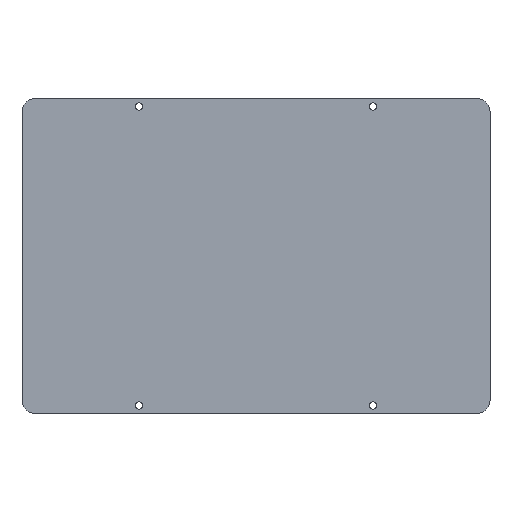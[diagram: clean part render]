
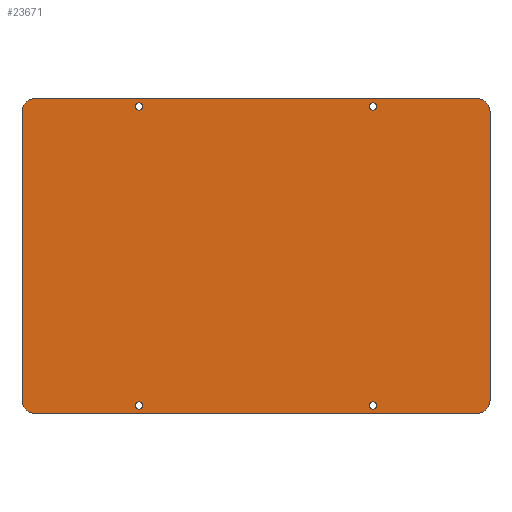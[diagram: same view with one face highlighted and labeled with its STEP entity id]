
A CAD part, front view. The second image highlights one B-rep face of the part: STEP entity #23671.
In plain terms, the highlighted planar face has unit normal (0, -1, 0).
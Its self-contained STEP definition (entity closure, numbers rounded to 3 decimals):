
#48 = CARTESIAN_POINT ( 'NONE',  ( 72.5, 0.1, 92.643 ) ) ;
#473 = CIRCLE ( 'NONE', #32227, 2.25 ) ;
#536 = VERTEX_POINT ( 'NONE', #10340 ) ;
#967 = CARTESIAN_POINT ( 'NONE',  ( 72.5, 0.1, 92.643 ) ) ;
#1221 = DIRECTION ( 'NONE',  ( 0., 0., 1. ) ) ;
#1287 = AXIS2_PLACEMENT_3D ( 'NONE', #24098, #7416, #26897 ) ;
#1587 = DIRECTION ( 'NONE',  ( 0., 0., 1. ) ) ;
#1801 = DIRECTION ( 'NONE',  ( 0., 0., 1. ) ) ;
#1858 = DIRECTION ( 'NONE',  ( 1., 0., 0. ) ) ;
#1931 = VERTEX_POINT ( 'NONE', #4948 ) ;
#2537 = CARTESIAN_POINT ( 'NONE',  ( 145., 0.1, 100.11 ) ) ;
#2713 = ORIENTED_EDGE ( 'NONE', *, *, #18815, .F. ) ;
#2774 = ORIENTED_EDGE ( 'NONE', *, *, #20781, .T. ) ;
#2854 = DIRECTION ( 'NONE',  ( 0., 0., 1. ) ) ;
#3035 = VERTEX_POINT ( 'NONE', #32906 ) ;
#3277 = VERTEX_POINT ( 'NONE', #12453 ) ;
#3445 = CARTESIAN_POINT ( 'NONE',  ( 72.5, 0.1, 90.393 ) ) ;
#3480 = VERTEX_POINT ( 'NONE', #6334 ) ;
#3679 = ORIENTED_EDGE ( 'NONE', *, *, #11369, .T. ) ;
#3749 = DIRECTION ( 'NONE',  ( 0., 0., 1. ) ) ;
#4088 = LINE ( 'NONE', #21228, #10593 ) ;
#4319 = VECTOR ( 'NONE', #30994, 1000. ) ;
#4609 = CARTESIAN_POINT ( 'NONE',  ( 72.5, 0.1, 94.893 ) ) ;
#4948 = CARTESIAN_POINT ( 'NONE',  ( 72.5, 0.1, -94.893 ) ) ;
#5116 = CARTESIAN_POINT ( 'NONE',  ( -72.5, 0.1, 92.643 ) ) ;
#5619 = CIRCLE ( 'NONE', #28300, 2.25 ) ;
#5715 = EDGE_CURVE ( 'NONE', #11382, #14102, #33263, .T. ) ;
#5905 = CARTESIAN_POINT ( 'NONE',  ( 137., 0.1, -89.5 ) ) ;
#6334 = CARTESIAN_POINT ( 'NONE',  ( 137., 0.1, 97.5 ) ) ;
#6548 = CIRCLE ( 'NONE', #11688, 8. ) ;
#6581 = EDGE_CURVE ( 'NONE', #14102, #11382, #20968, .T. ) ;
#6770 = VERTEX_POINT ( 'NONE', #14685 ) ;
#6870 = EDGE_CURVE ( 'NONE', #3035, #26585, #19264, .T. ) ;
#7285 = EDGE_LOOP ( 'NONE', ( #18295, #24692 ) ) ;
#7416 = DIRECTION ( 'NONE',  ( 0., 1., 0. ) ) ;
#7528 = AXIS2_PLACEMENT_3D ( 'NONE', #29029, #12339, #31838 ) ;
#7917 = DIRECTION ( 'NONE',  ( 0., 0., 1. ) ) ;
#7960 = CIRCLE ( 'NONE', #27759, 2.25 ) ;
#8222 = AXIS2_PLACEMENT_3D ( 'NONE', #48, #19432, #2854 ) ;
#8329 = VERTEX_POINT ( 'NONE', #33701 ) ;
#8486 = ORIENTED_EDGE ( 'NONE', *, *, #6581, .F. ) ;
#8569 = CIRCLE ( 'NONE', #1287, 8. ) ;
#8707 = DIRECTION ( 'NONE',  ( 0., 0., 1. ) ) ;
#8790 = VERTEX_POINT ( 'NONE', #27482 ) ;
#8840 = ORIENTED_EDGE ( 'NONE', *, *, #17934, .T. ) ;
#9089 = VERTEX_POINT ( 'NONE', #20598 ) ;
#9246 = CARTESIAN_POINT ( 'NONE',  ( 72.5, 0.1, -92.643 ) ) ;
#9387 = CIRCLE ( 'NONE', #34270, 8. ) ;
#9569 = ORIENTED_EDGE ( 'NONE', *, *, #32740, .F. ) ;
#10340 = CARTESIAN_POINT ( 'NONE',  ( -72.5, 0.1, -90.393 ) ) ;
#10593 = VECTOR ( 'NONE', #1858, 1000. ) ;
#11369 = EDGE_CURVE ( 'NONE', #16163, #9089, #4088, .T. ) ;
#11376 = AXIS2_PLACEMENT_3D ( 'NONE', #21526, #16026, #35524 ) ;
#11382 = VERTEX_POINT ( 'NONE', #4609 ) ;
#11490 = CIRCLE ( 'NONE', #32332, 2.25 ) ;
#11509 = CARTESIAN_POINT ( 'NONE',  ( -145., 0.1, 100.11 ) ) ;
#11688 = AXIS2_PLACEMENT_3D ( 'NONE', #35074, #18381, #1801 ) ;
#11998 = DIRECTION ( 'NONE',  ( 0., 0., 1. ) ) ;
#12339 = DIRECTION ( 'NONE',  ( 0., 1., 0. ) ) ;
#12453 = CARTESIAN_POINT ( 'NONE',  ( 145., 0.1, -89.5 ) ) ;
#12559 = ORIENTED_EDGE ( 'NONE', *, *, #16994, .T. ) ;
#12596 = EDGE_CURVE ( 'NONE', #19284, #536, #7960, .T. ) ;
#12763 = CARTESIAN_POINT ( 'NONE',  ( -137., 0.1, -97.5 ) ) ;
#13251 = CARTESIAN_POINT ( 'NONE',  ( 0., 0.1, 97.5 ) ) ;
#13722 = EDGE_CURVE ( 'NONE', #3480, #6770, #6548, .T. ) ;
#13883 = EDGE_CURVE ( 'NONE', #1931, #8329, #473, .T. ) ;
#14102 = VERTEX_POINT ( 'NONE', #3445 ) ;
#14611 = EDGE_CURVE ( 'NONE', #8329, #1931, #5619, .T. ) ;
#14685 = CARTESIAN_POINT ( 'NONE',  ( 145., 0.1, 89.5 ) ) ;
#15065 = DIRECTION ( 'NONE',  ( 0., -1., 0. ) ) ;
#16026 = DIRECTION ( 'NONE',  ( 0., 1., 0. ) ) ;
#16163 = VERTEX_POINT ( 'NONE', #12763 ) ;
#16417 = DIRECTION ( 'NONE',  ( 0., 1., 0. ) ) ;
#16472 = AXIS2_PLACEMENT_3D ( 'NONE', #34505, #17806, #1221 ) ;
#16994 = EDGE_CURVE ( 'NONE', #9089, #3277, #33794, .T. ) ;
#17493 = ORIENTED_EDGE ( 'NONE', *, *, #24315, .F. ) ;
#17594 = AXIS2_PLACEMENT_3D ( 'NONE', #5905, #25390, #8707 ) ;
#17783 = VERTEX_POINT ( 'NONE', #35046 ) ;
#17806 = DIRECTION ( 'NONE',  ( 0., -1., 0. ) ) ;
#17934 = EDGE_CURVE ( 'NONE', #26585, #3035, #11490, .T. ) ;
#18164 = DIRECTION ( 'NONE',  ( 0., 1., 0. ) ) ;
#18295 = ORIENTED_EDGE ( 'NONE', *, *, #13883, .T. ) ;
#18381 = DIRECTION ( 'NONE',  ( 0., 1., 0. ) ) ;
#18420 = AXIS2_PLACEMENT_3D ( 'NONE', #967, #20356, #3749 ) ;
#18424 = EDGE_LOOP ( 'NONE', ( #9569, #22455, #3679, #12559, #2774, #30118, #23364, #17493 ) ) ;
#18599 = DIRECTION ( 'NONE',  ( 1., 0., 0. ) ) ;
#18806 = ORIENTED_EDGE ( 'NONE', *, *, #12596, .F. ) ;
#18815 = EDGE_CURVE ( 'NONE', #536, #19284, #32775, .T. ) ;
#19225 = CARTESIAN_POINT ( 'NONE',  ( -145., 0.1, -89.5 ) ) ;
#19264 = CIRCLE ( 'NONE', #7528, 2.25 ) ;
#19284 = VERTEX_POINT ( 'NONE', #22913 ) ;
#19432 = DIRECTION ( 'NONE',  ( 0., -1., 0. ) ) ;
#19461 = EDGE_LOOP ( 'NONE', ( #30295, #8840 ) ) ;
#20356 = DIRECTION ( 'NONE',  ( 0., -1., 0. ) ) ;
#20598 = CARTESIAN_POINT ( 'NONE',  ( 137., 0.1, -97.5 ) ) ;
#20781 = EDGE_CURVE ( 'NONE', #3277, #6770, #28776, .T. ) ;
#20968 = CIRCLE ( 'NONE', #8222, 2.25 ) ;
#21228 = CARTESIAN_POINT ( 'NONE',  ( 0., 0.1, -97.5 ) ) ;
#21526 = CARTESIAN_POINT ( 'NONE',  ( 0., 0.1, 100.11 ) ) ;
#21600 = FACE_BOUND ( 'NONE', #7285, .T. ) ;
#22455 = ORIENTED_EDGE ( 'NONE', *, *, #34664, .F. ) ;
#22479 = FACE_BOUND ( 'NONE', #30831, .T. ) ;
#22913 = CARTESIAN_POINT ( 'NONE',  ( -72.5, 0.1, -94.893 ) ) ;
#23364 = ORIENTED_EDGE ( 'NONE', *, *, #25032, .F. ) ;
#23671 = ADVANCED_FACE ( 'NONE', ( #21600, #24261, #29019, #22479, #31645 ), #32724, .F. ) ;
#24098 = CARTESIAN_POINT ( 'NONE',  ( -137., 0.1, -89.5 ) ) ;
#24261 = FACE_BOUND ( 'NONE', #35709, .T. ) ;
#24315 = EDGE_CURVE ( 'NONE', #17783, #8790, #9387, .T. ) ;
#24612 = DIRECTION ( 'NONE',  ( 0., 1., 0. ) ) ;
#24692 = ORIENTED_EDGE ( 'NONE', *, *, #14611, .T. ) ;
#25032 = EDGE_CURVE ( 'NONE', #8790, #3480, #31068, .T. ) ;
#25390 = DIRECTION ( 'NONE',  ( 0., -1., 0. ) ) ;
#26585 = VERTEX_POINT ( 'NONE', #26938 ) ;
#26897 = DIRECTION ( 'NONE',  ( 0., 0., 1. ) ) ;
#26938 = CARTESIAN_POINT ( 'NONE',  ( -72.5, 0.1, 94.893 ) ) ;
#27482 = CARTESIAN_POINT ( 'NONE',  ( -137., 0.1, 97.5 ) ) ;
#27575 = DIRECTION ( 'NONE',  ( 0., 0., 1. ) ) ;
#27759 = AXIS2_PLACEMENT_3D ( 'NONE', #31783, #15065, #34573 ) ;
#27907 = VECTOR ( 'NONE', #27575, 1000. ) ;
#28300 = AXIS2_PLACEMENT_3D ( 'NONE', #9246, #28691, #11998 ) ;
#28691 = DIRECTION ( 'NONE',  ( 0., 1., 0. ) ) ;
#28776 = LINE ( 'NONE', #2537, #27907 ) ;
#29019 = FACE_BOUND ( 'NONE', #19461, .T. ) ;
#29029 = CARTESIAN_POINT ( 'NONE',  ( -72.5, 0.1, 92.643 ) ) ;
#30118 = ORIENTED_EDGE ( 'NONE', *, *, #13722, .F. ) ;
#30195 = VECTOR ( 'NONE', #18599, 1000. ) ;
#30295 = ORIENTED_EDGE ( 'NONE', *, *, #6870, .T. ) ;
#30831 = EDGE_LOOP ( 'NONE', ( #8486, #31277 ) ) ;
#30994 = DIRECTION ( 'NONE',  ( 0., 0., 1. ) ) ;
#31068 = LINE ( 'NONE', #13251, #30195 ) ;
#31277 = ORIENTED_EDGE ( 'NONE', *, *, #5715, .F. ) ;
#31645 = FACE_OUTER_BOUND ( 'NONE', #18424, .T. ) ;
#31783 = CARTESIAN_POINT ( 'NONE',  ( -72.5, 0.1, -92.643 ) ) ;
#31838 = DIRECTION ( 'NONE',  ( 0., 0., 1. ) ) ;
#32227 = AXIS2_PLACEMENT_3D ( 'NONE', #33117, #16417, #35908 ) ;
#32332 = AXIS2_PLACEMENT_3D ( 'NONE', #5116, #24612, #7917 ) ;
#32724 = PLANE ( 'NONE',  #11376 ) ;
#32740 = EDGE_CURVE ( 'NONE', #33676, #17783, #33907, .T. ) ;
#32775 = CIRCLE ( 'NONE', #16472, 2.25 ) ;
#32906 = CARTESIAN_POINT ( 'NONE',  ( -72.5, 0.1, 90.393 ) ) ;
#33117 = CARTESIAN_POINT ( 'NONE',  ( 72.5, 0.1, -92.643 ) ) ;
#33263 = CIRCLE ( 'NONE', #18420, 2.25 ) ;
#33676 = VERTEX_POINT ( 'NONE', #19225 ) ;
#33701 = CARTESIAN_POINT ( 'NONE',  ( 72.5, 0.1, -90.393 ) ) ;
#33794 = CIRCLE ( 'NONE', #17594, 8. ) ;
#33907 = LINE ( 'NONE', #11509, #4319 ) ;
#34270 = AXIS2_PLACEMENT_3D ( 'NONE', #34869, #18164, #1587 ) ;
#34505 = CARTESIAN_POINT ( 'NONE',  ( -72.5, 0.1, -92.643 ) ) ;
#34573 = DIRECTION ( 'NONE',  ( 0., 0., 1. ) ) ;
#34664 = EDGE_CURVE ( 'NONE', #16163, #33676, #8569, .T. ) ;
#34869 = CARTESIAN_POINT ( 'NONE',  ( -137., 0.1, 89.5 ) ) ;
#35046 = CARTESIAN_POINT ( 'NONE',  ( -145., 0.1, 89.5 ) ) ;
#35074 = CARTESIAN_POINT ( 'NONE',  ( 137., 0.1, 89.5 ) ) ;
#35524 = DIRECTION ( 'NONE',  ( 0., 0., 1. ) ) ;
#35709 = EDGE_LOOP ( 'NONE', ( #18806, #2713 ) ) ;
#35908 = DIRECTION ( 'NONE',  ( 0., 0., 1. ) ) ;
